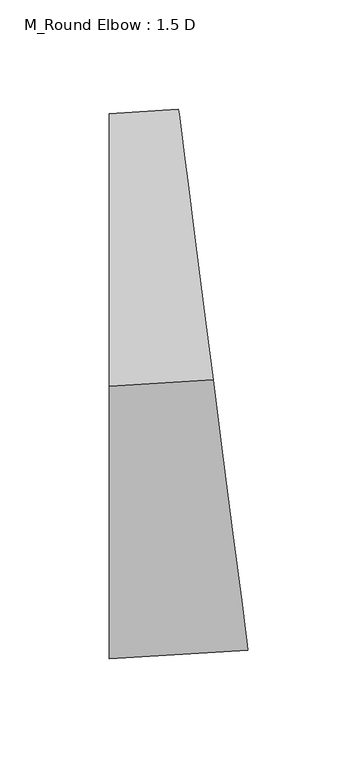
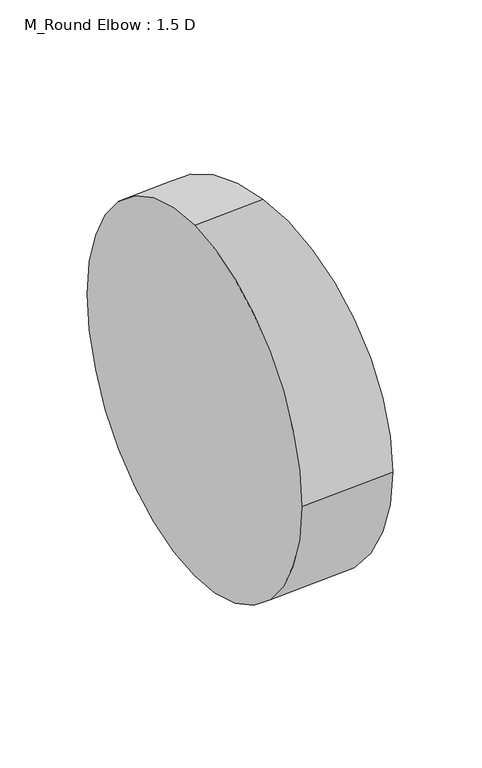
"""IFC4 building model written with IfcOpenShell, lengths in millimetres: duct fitting geometry, M_Round Elbow : 1.5 D."""

from ifc_helpers import new_model, si_unit, point, frame, origin, place, context, project, spatial, circle_curve, ellipse_curve, trimmed, source, transform, mapped, element, save
from ifc_brep_helpers import plane_surface, revolved_surface, advanced_brep


def m_round_elbow_1_5_d_46442800(model_context):
    return source(origin(), model_context, "Body", "AdvancedBrep", [
        advanced_brep(
        [(-23.95807, 0.0, 125.0), (-23.95807, 125.0, 0.0), (-23.95807, 0.0, -125.0), (-23.95807, -125.0, 0.0), (23.7632857, 3.0488309, 125.0), (39.6704043, -120.9348922, 0.0), (23.7632857, 3.0488309, -125.0), (7.8561671, 127.0325539, 0.0)],
        [
            (0, 1, circle_curve(frame((-23.95807, 0.0, 0.0), z_axis=(-1.0, 0.0, 0.0), x_axis=(0.0, 1.0, 0.0)), 125.0)),
            (1, 2, circle_curve(frame((-23.95807, 0.0, 0.0), z_axis=(-1.0, 0.0, 0.0), x_axis=(0.0, 1.0, 0.0)), 125.0)),
            (2, 3, circle_curve(frame((-23.95807, 0.0, 0.0), z_axis=(-1.0, 0.0, 0.0), x_axis=(0.0, 1.0, 0.0)), 125.0)),
            (3, 0, circle_curve(frame((-23.95807, 0.0, 0.0), z_axis=(-1.0, 0.0, 0.0), x_axis=(0.0, 1.0, 0.0)), 125.0)),
            (4, 5, circle_curve(frame((23.7632857, 3.0488309, 0.0), z_axis=(0.9918697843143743, 0.1272569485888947, 0.0), x_axis=(-0.1272569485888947, 0.9918697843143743, 0.0)), 125.0)),
            (5, 6, circle_curve(frame((23.7632857, 3.0488309, 0.0), z_axis=(0.9918697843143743, 0.1272569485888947, 0.0), x_axis=(-0.1272569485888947, 0.9918697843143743, 0.0)), 125.0)),
            (6, 7, circle_curve(frame((23.7632857, 3.0488309, 0.0), z_axis=(0.9918697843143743, 0.1272569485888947, 0.0), x_axis=(-0.1272569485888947, 0.9918697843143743, 0.0)), 125.0)),
            (7, 4, circle_curve(frame((23.7632857, 3.0488309, 0.0), z_axis=(0.9918697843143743, 0.1272569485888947, 0.0), x_axis=(-0.1272569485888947, 0.9918697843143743, 0.0)), 125.0)),
            (7, 1, circle_curve(frame((-23.95807, 375.0, 0.0), z_axis=(0.0, 0.0, -1.0), x_axis=(0.0, -1.0, 0.0)), 250.0)),
            (0, 4, circle_curve(frame((-23.95807, 375.0, 125.0), z_axis=(0.0, 0.0, 1.0), x_axis=(0.0, -1.0, 0.0)), 375.0)),
            (6, 2, circle_curve(frame((-23.95807, 375.0, -125.0), z_axis=(0.0, 0.0, -1.0), x_axis=(0.0, -1.0, 0.0)), 375.0)),
            (5, 3, circle_curve(frame((-23.95807, 375.0, 0.0), z_axis=(0.0, 0.0, -1.0), x_axis=(0.0, -1.0, 0.0)), 500.0)),
        ],
        [
            plane_surface(frame((-23.95807, 0.0, 0.0), z_axis=(-1.0, 0.0, 0.0), x_axis=(0.0, 0.0, 1.0))),
            plane_surface(frame((23.7632857, 3.0488309, 0.0), z_axis=(0.9918697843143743, 0.12725694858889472, 0.0), x_axis=(0.0, 0.0, 1.0))),
            revolved_surface(trimmed(ellipse_curve(frame((-23.95807, 0.0, 0.0), z_axis=(-1.0, 0.0, 0.0), x_axis=(0.0, 1.0, 0.0)), 125.0, 125.0), [point((-23.95807, 0.0, 125.0))], [point((-23.95807, 125.0, 0.0))], True, "CARTESIAN"), (-23.95807, 375.0, 0.0), (0.0, 0.0, 1.0)),
            revolved_surface(trimmed(ellipse_curve(frame((-23.95807, 0.0, 0.0), z_axis=(-1.0, 0.0, 0.0), x_axis=(0.0, 1.0, 0.0)), 125.0, 125.0), [point((-23.95807, 125.0, 0.0))], [point((-23.95807, 0.0, -125.0))], True, "CARTESIAN"), (-23.95807, 375.0, 0.0), (0.0, 0.0, 1.0)),
            revolved_surface(trimmed(ellipse_curve(frame((-23.95807, 0.0, 0.0), z_axis=(-1.0, 0.0, 0.0), x_axis=(0.0, 1.0, 0.0)), 125.0, 125.0), [point((-23.95807, 0.0, -125.0))], [point((-23.95807, -125.0, 0.0))], True, "CARTESIAN"), (-23.95807, 375.0, 0.0), (0.0, 0.0, 1.0)),
            revolved_surface(trimmed(ellipse_curve(frame((-23.95807, 0.0, 0.0), z_axis=(-1.0, 0.0, 0.0), x_axis=(0.0, 1.0, 0.0)), 125.0, 125.0), [point((-23.95807, -125.0, 0.0))], [point((-23.95807, 0.0, 125.0))], True, "CARTESIAN"), (-23.95807, 375.0, 0.0), (0.0, 0.0, 1.0)),
        ],
        [
            (0, [[1, 2, 3, 4]]),
            (1, [[5, 6, 7, 8]]),
            (2, [[9, -1, 10, -8]]),
            (3, [[11, -2, -9, -7]]),
            (4, [[12, -3, -11, -6]]),
            (5, [[-10, -4, -12, -5]]),
        ],
    ),
        advanced_brep(
        [(-23.95807, 0.0, 125.0), (-23.95807, 125.0, 0.0), (-23.95807, 0.0, -125.0), (-23.95807, -125.0, 0.0), (23.7632857, 3.0488309, 125.0), (39.6704043, -120.9348922, 0.0), (23.7632857, 3.0488309, -125.0), (7.8561671, 127.0325539, 0.0)],
        [
            (0, 1, circle_curve(frame((-23.95807, 0.0, 0.0), z_axis=(-1.0, 0.0, 0.0), x_axis=(0.0, 1.0, 0.0)), 125.0)),
            (1, 2, circle_curve(frame((-23.95807, 0.0, 0.0), z_axis=(-1.0, 0.0, 0.0), x_axis=(0.0, 1.0, 0.0)), 125.0)),
            (2, 3, circle_curve(frame((-23.95807, 0.0, 0.0), z_axis=(-1.0, 0.0, 0.0), x_axis=(0.0, 1.0, 0.0)), 125.0)),
            (3, 0, circle_curve(frame((-23.95807, 0.0, 0.0), z_axis=(-1.0, 0.0, 0.0), x_axis=(0.0, 1.0, 0.0)), 125.0)),
            (4, 5, circle_curve(frame((23.7632857, 3.0488309, 0.0), z_axis=(0.9918697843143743, 0.1272569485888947, 0.0), x_axis=(-0.1272569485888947, 0.9918697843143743, 0.0)), 125.0)),
            (5, 6, circle_curve(frame((23.7632857, 3.0488309, 0.0), z_axis=(0.9918697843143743, 0.1272569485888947, 0.0), x_axis=(-0.1272569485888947, 0.9918697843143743, 0.0)), 125.0)),
            (6, 7, circle_curve(frame((23.7632857, 3.0488309, 0.0), z_axis=(0.9918697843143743, 0.1272569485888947, 0.0), x_axis=(-0.1272569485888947, 0.9918697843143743, 0.0)), 125.0)),
            (7, 4, circle_curve(frame((23.7632857, 3.0488309, 0.0), z_axis=(0.9918697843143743, 0.1272569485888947, 0.0), x_axis=(-0.1272569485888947, 0.9918697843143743, 0.0)), 125.0)),
            (7, 1, circle_curve(frame((-23.95807, 375.0, 0.0), z_axis=(0.0, 0.0, -1.0), x_axis=(0.0, -1.0, 0.0)), 250.0)),
            (0, 4, circle_curve(frame((-23.95807, 375.0, 125.0), z_axis=(0.0, 0.0, 1.0), x_axis=(0.0, -1.0, 0.0)), 375.0)),
            (6, 2, circle_curve(frame((-23.95807, 375.0, -125.0), z_axis=(0.0, 0.0, -1.0), x_axis=(0.0, -1.0, 0.0)), 375.0)),
            (5, 3, circle_curve(frame((-23.95807, 375.0, 0.0), z_axis=(0.0, 0.0, -1.0), x_axis=(0.0, -1.0, 0.0)), 500.0)),
        ],
        [
            plane_surface(frame((-23.95807, 0.0, 0.0), z_axis=(-1.0, 0.0, 0.0), x_axis=(0.0, 0.0, 1.0))),
            plane_surface(frame((23.7632857, 3.0488309, 0.0), z_axis=(0.9918697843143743, 0.12725694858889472, 0.0), x_axis=(0.0, 0.0, 1.0))),
            revolved_surface(trimmed(ellipse_curve(frame((-23.95807, 0.0, 0.0), z_axis=(-1.0, 0.0, 0.0), x_axis=(0.0, 1.0, 0.0)), 125.0, 125.0), [point((-23.95807, 0.0, 125.0))], [point((-23.95807, 125.0, 0.0))], True, "CARTESIAN"), (-23.95807, 375.0, 0.0), (0.0, 0.0, 1.0)),
            revolved_surface(trimmed(ellipse_curve(frame((-23.95807, 0.0, 0.0), z_axis=(-1.0, 0.0, 0.0), x_axis=(0.0, 1.0, 0.0)), 125.0, 125.0), [point((-23.95807, 125.0, 0.0))], [point((-23.95807, 0.0, -125.0))], True, "CARTESIAN"), (-23.95807, 375.0, 0.0), (0.0, 0.0, 1.0)),
            revolved_surface(trimmed(ellipse_curve(frame((-23.95807, 0.0, 0.0), z_axis=(-1.0, 0.0, 0.0), x_axis=(0.0, 1.0, 0.0)), 125.0, 125.0), [point((-23.95807, 0.0, -125.0))], [point((-23.95807, -125.0, 0.0))], True, "CARTESIAN"), (-23.95807, 375.0, 0.0), (0.0, 0.0, 1.0)),
            revolved_surface(trimmed(ellipse_curve(frame((-23.95807, 0.0, 0.0), z_axis=(-1.0, 0.0, 0.0), x_axis=(0.0, 1.0, 0.0)), 125.0, 125.0), [point((-23.95807, -125.0, 0.0))], [point((-23.95807, 0.0, 125.0))], True, "CARTESIAN"), (-23.95807, 375.0, 0.0), (0.0, 0.0, 1.0)),
        ],
        [
            (0, [[1, 2, 3, 4]]),
            (1, [[5, 6, 7, 8]]),
            (2, [[9, -1, 10, -8]]),
            (3, [[11, -2, -9, -7]]),
            (4, [[12, -3, -11, -6]]),
            (5, [[-10, -4, -12, -5]]),
        ],
    ),
        advanced_brep(
        [(-23.95807, 0.0, 125.0), (-23.95807, 125.0, 0.0), (-23.95807, 0.0, -125.0), (-23.95807, -125.0, 0.0), (23.7632857, 3.0488309, 125.0), (39.6704043, -120.9348922, 0.0), (23.7632857, 3.0488309, -125.0), (7.8561671, 127.0325539, 0.0)],
        [
            (0, 1, circle_curve(frame((-23.95807, 0.0, 0.0), z_axis=(-1.0, 0.0, 0.0), x_axis=(0.0, 1.0, 0.0)), 125.0)),
            (1, 2, circle_curve(frame((-23.95807, 0.0, 0.0), z_axis=(-1.0, 0.0, 0.0), x_axis=(0.0, 1.0, 0.0)), 125.0)),
            (2, 3, circle_curve(frame((-23.95807, 0.0, 0.0), z_axis=(-1.0, 0.0, 0.0), x_axis=(0.0, 1.0, 0.0)), 125.0)),
            (3, 0, circle_curve(frame((-23.95807, 0.0, 0.0), z_axis=(-1.0, 0.0, 0.0), x_axis=(0.0, 1.0, 0.0)), 125.0)),
            (4, 5, circle_curve(frame((23.7632857, 3.0488309, 0.0), z_axis=(0.9918697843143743, 0.1272569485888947, 0.0), x_axis=(-0.1272569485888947, 0.9918697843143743, 0.0)), 125.0)),
            (5, 6, circle_curve(frame((23.7632857, 3.0488309, 0.0), z_axis=(0.9918697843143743, 0.1272569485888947, 0.0), x_axis=(-0.1272569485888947, 0.9918697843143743, 0.0)), 125.0)),
            (6, 7, circle_curve(frame((23.7632857, 3.0488309, 0.0), z_axis=(0.9918697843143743, 0.1272569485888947, 0.0), x_axis=(-0.1272569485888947, 0.9918697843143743, 0.0)), 125.0)),
            (7, 4, circle_curve(frame((23.7632857, 3.0488309, 0.0), z_axis=(0.9918697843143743, 0.1272569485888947, 0.0), x_axis=(-0.1272569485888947, 0.9918697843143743, 0.0)), 125.0)),
            (7, 1, circle_curve(frame((-23.95807, 375.0, 0.0), z_axis=(0.0, 0.0, -1.0), x_axis=(0.0, -1.0, 0.0)), 250.0)),
            (0, 4, circle_curve(frame((-23.95807, 375.0, 125.0), z_axis=(0.0, 0.0, 1.0), x_axis=(0.0, -1.0, 0.0)), 375.0)),
            (6, 2, circle_curve(frame((-23.95807, 375.0, -125.0), z_axis=(0.0, 0.0, -1.0), x_axis=(0.0, -1.0, 0.0)), 375.0)),
            (5, 3, circle_curve(frame((-23.95807, 375.0, 0.0), z_axis=(0.0, 0.0, -1.0), x_axis=(0.0, -1.0, 0.0)), 500.0)),
        ],
        [
            plane_surface(frame((-23.95807, 0.0, 0.0), z_axis=(-1.0, 0.0, 0.0), x_axis=(0.0, 0.0, 1.0))),
            plane_surface(frame((23.7632857, 3.0488309, 0.0), z_axis=(0.9918697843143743, 0.12725694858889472, 0.0), x_axis=(0.0, 0.0, 1.0))),
            revolved_surface(trimmed(ellipse_curve(frame((-23.95807, 0.0, 0.0), z_axis=(-1.0, 0.0, 0.0), x_axis=(0.0, 1.0, 0.0)), 125.0, 125.0), [point((-23.95807, 0.0, 125.0))], [point((-23.95807, 125.0, 0.0))], True, "CARTESIAN"), (-23.95807, 375.0, 0.0), (0.0, 0.0, 1.0)),
            revolved_surface(trimmed(ellipse_curve(frame((-23.95807, 0.0, 0.0), z_axis=(-1.0, 0.0, 0.0), x_axis=(0.0, 1.0, 0.0)), 125.0, 125.0), [point((-23.95807, 125.0, 0.0))], [point((-23.95807, 0.0, -125.0))], True, "CARTESIAN"), (-23.95807, 375.0, 0.0), (0.0, 0.0, 1.0)),
            revolved_surface(trimmed(ellipse_curve(frame((-23.95807, 0.0, 0.0), z_axis=(-1.0, 0.0, 0.0), x_axis=(0.0, 1.0, 0.0)), 125.0, 125.0), [point((-23.95807, 0.0, -125.0))], [point((-23.95807, -125.0, 0.0))], True, "CARTESIAN"), (-23.95807, 375.0, 0.0), (0.0, 0.0, 1.0)),
            revolved_surface(trimmed(ellipse_curve(frame((-23.95807, 0.0, 0.0), z_axis=(-1.0, 0.0, 0.0), x_axis=(0.0, 1.0, 0.0)), 125.0, 125.0), [point((-23.95807, -125.0, 0.0))], [point((-23.95807, 0.0, 125.0))], True, "CARTESIAN"), (-23.95807, 375.0, 0.0), (0.0, 0.0, 1.0)),
        ],
        [
            (0, [[1, 2, 3, 4]]),
            (1, [[5, 6, 7, 8]]),
            (2, [[9, -1, 10, -8]]),
            (3, [[11, -2, -9, -7]]),
            (4, [[12, -3, -11, -6]]),
            (5, [[-10, -4, -12, -5]]),
        ],
    ),
    ])


if __name__ == "__main__":
    model = new_model("IFC4")
    model_context = context("Model", 3, world=origin())
    ifc_project = project(units=[si_unit("LENGTHUNIT", "METRE", prefix="MILLI")], contexts=[model_context])
    site = spatial("IfcSite", under=ifc_project)
    building = spatial("IfcBuilding", under=site)
    placement = place(None, origin())
    m_round_elbow_1_5_d_shape = m_round_elbow_1_5_d_46442800(model_context)
    element("IfcDuctFitting", 1, ObjectType="M_Round Elbow : 1.5 D", at=placement, inside=building, context=model_context, shape_type="MappedRepresentation", body=[
        mapped(m_round_elbow_1_5_d_shape, transform((0.0, 0.0, 0.0), x_axis=(1.0, 0.0, 0.0), y_axis=(0.0, 1.0, 0.0), z_axis=(0.0, 0.0, 1.0))),
    ])
    save(model, "model.ifc")
